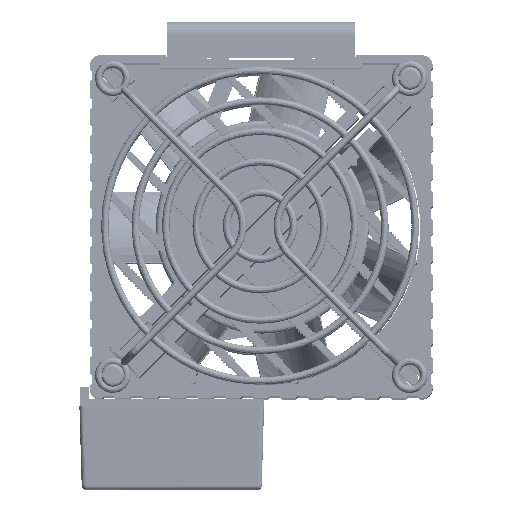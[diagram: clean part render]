
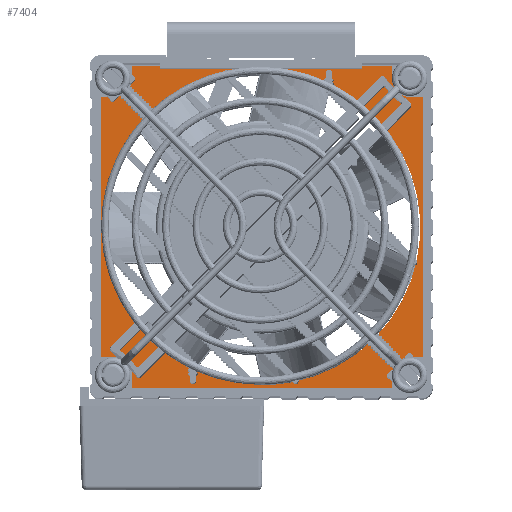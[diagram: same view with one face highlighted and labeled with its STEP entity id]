
A CAD part, top view. The second image highlights one B-rep face of the part: STEP entity #7404.
In plain terms, the highlighted planar face has unit normal (0, 0, 1).
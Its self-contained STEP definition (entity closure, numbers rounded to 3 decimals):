
#106=FACE_BOUND('',#12333,.T.);
#172=PLANE('',#45197);
#2467=(
BOUNDED_CURVE()
B_SPLINE_CURVE(2,(#55992,#55993,#55994,#55995,#55996),.UNSPECIFIED.,.F.,
 .F.)
B_SPLINE_CURVE_WITH_KNOTS((3,2,3),(0.,9.,12.),
 .UNSPECIFIED.)
CURVE()
GEOMETRIC_REPRESENTATION_ITEM()
RATIONAL_B_SPLINE_CURVE((1.,0.707,1.,1.,1.))
REPRESENTATION_ITEM('')
);
#2468=(
BOUNDED_CURVE()
B_SPLINE_CURVE(2,(#55997,#55998,#55999),.UNSPECIFIED.,.F.,.F.)
B_SPLINE_CURVE_WITH_KNOTS((3,3),(0.,62.1),.UNSPECIFIED.)
CURVE()
GEOMETRIC_REPRESENTATION_ITEM()
RATIONAL_B_SPLINE_CURVE((1.,1.,1.))
REPRESENTATION_ITEM('')
);
#2469=(
BOUNDED_CURVE()
B_SPLINE_CURVE(2,(#56000,#56001,#56002,#56003,#56004,#56005,#56006),
 .UNSPECIFIED.,.F.,.F.)
B_SPLINE_CURVE_WITH_KNOTS((3,2,2,3),(0.,3.,12.,15.),.UNSPECIFIED.)
CURVE()
GEOMETRIC_REPRESENTATION_ITEM()
RATIONAL_B_SPLINE_CURVE((1.,1.,1.,0.707,1.,1.,1.))
REPRESENTATION_ITEM('')
);
#2470=(
BOUNDED_CURVE()
B_SPLINE_CURVE(2,(#56007,#56008,#56009),.UNSPECIFIED.,.F.,.F.)
B_SPLINE_CURVE_WITH_KNOTS((3,3),(0.,62.1),.UNSPECIFIED.)
CURVE()
GEOMETRIC_REPRESENTATION_ITEM()
RATIONAL_B_SPLINE_CURVE((1.,1.,1.))
REPRESENTATION_ITEM('')
);
#2471=(
BOUNDED_CURVE()
B_SPLINE_CURVE(2,(#56010,#56011,#56012,#56013,#56014,#56015,#56016),
 .UNSPECIFIED.,.F.,.F.)
B_SPLINE_CURVE_WITH_KNOTS((3,2,2,3),(0.,3.,12.,
15.),.UNSPECIFIED.)
CURVE()
GEOMETRIC_REPRESENTATION_ITEM()
RATIONAL_B_SPLINE_CURVE((1.,1.,1.,0.707,1.,1.,1.))
REPRESENTATION_ITEM('')
);
#2472=(
BOUNDED_CURVE()
B_SPLINE_CURVE(2,(#56017,#56018,#56019),.UNSPECIFIED.,.F.,.F.)
B_SPLINE_CURVE_WITH_KNOTS((3,3),(0.,62.1),.UNSPECIFIED.)
CURVE()
GEOMETRIC_REPRESENTATION_ITEM()
RATIONAL_B_SPLINE_CURVE((1.,1.,1.))
REPRESENTATION_ITEM('')
);
#2473=(
BOUNDED_CURVE()
B_SPLINE_CURVE(2,(#56020,#56021,#56022,#56023,#56024,#56025,#56026),
 .UNSPECIFIED.,.F.,.F.)
B_SPLINE_CURVE_WITH_KNOTS((3,2,2,3),(0.,3.,12.,15.),.UNSPECIFIED.)
CURVE()
GEOMETRIC_REPRESENTATION_ITEM()
RATIONAL_B_SPLINE_CURVE((1.,1.,1.,0.707,1.,1.,1.))
REPRESENTATION_ITEM('')
);
#2474=(
BOUNDED_CURVE()
B_SPLINE_CURVE(2,(#56027,#56028,#56029),.UNSPECIFIED.,.F.,.F.)
B_SPLINE_CURVE_WITH_KNOTS((3,3),(0.,62.1),.UNSPECIFIED.)
CURVE()
GEOMETRIC_REPRESENTATION_ITEM()
RATIONAL_B_SPLINE_CURVE((1.,1.,1.))
REPRESENTATION_ITEM('')
);
#2475=(
BOUNDED_CURVE()
B_SPLINE_CURVE(2,(#56030,#56031,#56032),.UNSPECIFIED.,.F.,.F.)
B_SPLINE_CURVE_WITH_KNOTS((3,3),(0.,3.),.UNSPECIFIED.)
CURVE()
GEOMETRIC_REPRESENTATION_ITEM()
RATIONAL_B_SPLINE_CURVE((1.,1.,1.))
REPRESENTATION_ITEM('')
);
#2476=(
BOUNDED_CURVE()
B_SPLINE_CURVE(2,(#56033,#56034,#56035,#56036,#56037,#56038,#56039,#56040,
#56041),.UNSPECIFIED.,.T.,.F.)
B_SPLINE_CURVE_WITH_KNOTS((3,2,2,2,3),(0.,75.6,151.2,226.8,
302.4),.UNSPECIFIED.)
CURVE()
GEOMETRIC_REPRESENTATION_ITEM()
RATIONAL_B_SPLINE_CURVE((1.,0.707,1.,0.707,1.,0.707,
1.,0.707,1.))
REPRESENTATION_ITEM('')
);
#7404=ADVANCED_FACE('',(#9868,#106),#172,.T.);
#9868=FACE_OUTER_BOUND('',#12332,.T.);
#12332=EDGE_LOOP('',(#15019,#15020,#15021,#15022,#15023,#15024,#15025,#15026,
#15027));
#12333=EDGE_LOOP('',(#15028));
#15019=ORIENTED_EDGE('',*,*,#29230,.T.);
#15020=ORIENTED_EDGE('',*,*,#29231,.T.);
#15021=ORIENTED_EDGE('',*,*,#29232,.T.);
#15022=ORIENTED_EDGE('',*,*,#29233,.T.);
#15023=ORIENTED_EDGE('',*,*,#29234,.T.);
#15024=ORIENTED_EDGE('',*,*,#29235,.T.);
#15025=ORIENTED_EDGE('',*,*,#29236,.T.);
#15026=ORIENTED_EDGE('',*,*,#29237,.T.);
#15027=ORIENTED_EDGE('',*,*,#29238,.T.);
#15028=ORIENTED_EDGE('',*,*,#29239,.T.);
#29230=EDGE_CURVE('',#40233,#40234,#2467,.T.);
#29231=EDGE_CURVE('',#40234,#40235,#2468,.T.);
#29232=EDGE_CURVE('',#40235,#40236,#2469,.T.);
#29233=EDGE_CURVE('',#40236,#40237,#2470,.T.);
#29234=EDGE_CURVE('',#40237,#40238,#2471,.T.);
#29235=EDGE_CURVE('',#40238,#40239,#2472,.T.);
#29236=EDGE_CURVE('',#40239,#40240,#2473,.T.);
#29237=EDGE_CURVE('',#40240,#40241,#2474,.T.);
#29238=EDGE_CURVE('',#40241,#40233,#2475,.T.);
#29239=EDGE_CURVE('',#40242,#40242,#2476,.T.);
#40233=VERTEX_POINT('',#55982);
#40234=VERTEX_POINT('',#55983);
#40235=VERTEX_POINT('',#55984);
#40236=VERTEX_POINT('',#55985);
#40237=VERTEX_POINT('',#55986);
#40238=VERTEX_POINT('',#55987);
#40239=VERTEX_POINT('',#55988);
#40240=VERTEX_POINT('',#55989);
#40241=VERTEX_POINT('',#55990);
#40242=VERTEX_POINT('',#55991);
#45197=AXIS2_PLACEMENT_3D('',#55981,#47445,$);
#47445=DIRECTION('',(0.,0.,1.));
#55981=CARTESIAN_POINT('',(-150.864,117.514,-1.1));
#55982=CARTESIAN_POINT('',(-69.05,102.3,-1.1));
#55983=CARTESIAN_POINT('',(-73.55,109.8,-1.1));
#55984=CARTESIAN_POINT('',(-135.65,109.8,-1.1));
#55985=CARTESIAN_POINT('',(-143.15,102.3,-1.1));
#55986=CARTESIAN_POINT('',(-143.15,40.2,-1.1));
#55987=CARTESIAN_POINT('',(-135.65,32.7,-1.1));
#55988=CARTESIAN_POINT('',(-73.55,32.7,-1.1));
#55989=CARTESIAN_POINT('',(-66.05,40.2,-1.1));
#55990=CARTESIAN_POINT('',(-66.05,102.3,-1.1));
#55991=CARTESIAN_POINT('',(-104.6,33.45,-1.1));
#55992=CARTESIAN_POINT('',(-69.05,102.3,-1.1));
#55993=CARTESIAN_POINT('',(-73.55,102.3,-1.1));
#55994=CARTESIAN_POINT('',(-73.55,106.8,-1.1));
#55995=CARTESIAN_POINT('',(-73.55,108.3,-1.1));
#55996=CARTESIAN_POINT('',(-73.55,109.8,-1.1));
#55997=CARTESIAN_POINT('',(-73.55,109.8,-1.1));
#55998=CARTESIAN_POINT('',(-104.6,109.8,-1.1));
#55999=CARTESIAN_POINT('',(-135.65,109.8,-1.1));
#56000=CARTESIAN_POINT('',(-135.65,109.8,-1.1));
#56001=CARTESIAN_POINT('',(-135.65,108.3,-1.1));
#56002=CARTESIAN_POINT('',(-135.65,106.8,-1.1));
#56003=CARTESIAN_POINT('',(-135.65,102.3,-1.1));
#56004=CARTESIAN_POINT('',(-140.15,102.3,-1.1));
#56005=CARTESIAN_POINT('',(-141.65,102.3,-1.1));
#56006=CARTESIAN_POINT('',(-143.15,102.3,-1.1));
#56007=CARTESIAN_POINT('',(-143.15,102.3,-1.1));
#56008=CARTESIAN_POINT('',(-143.15,71.25,-1.1));
#56009=CARTESIAN_POINT('',(-143.15,40.2,-1.1));
#56010=CARTESIAN_POINT('',(-143.15,40.2,-1.1));
#56011=CARTESIAN_POINT('',(-141.65,40.2,-1.1));
#56012=CARTESIAN_POINT('',(-140.15,40.2,-1.1));
#56013=CARTESIAN_POINT('',(-135.65,40.2,-1.1));
#56014=CARTESIAN_POINT('',(-135.65,35.7,-1.1));
#56015=CARTESIAN_POINT('',(-135.65,34.2,-1.1));
#56016=CARTESIAN_POINT('',(-135.65,32.7,-1.1));
#56017=CARTESIAN_POINT('',(-135.65,32.7,-1.1));
#56018=CARTESIAN_POINT('',(-104.6,32.7,-1.1));
#56019=CARTESIAN_POINT('',(-73.55,32.7,-1.1));
#56020=CARTESIAN_POINT('',(-73.55,32.7,-1.1));
#56021=CARTESIAN_POINT('',(-73.55,34.2,-1.1));
#56022=CARTESIAN_POINT('',(-73.55,35.7,-1.1));
#56023=CARTESIAN_POINT('',(-73.55,40.2,-1.1));
#56024=CARTESIAN_POINT('',(-69.05,40.2,-1.1));
#56025=CARTESIAN_POINT('',(-67.55,40.2,-1.1));
#56026=CARTESIAN_POINT('',(-66.05,40.2,-1.1));
#56027=CARTESIAN_POINT('',(-66.05,40.2,-1.1));
#56028=CARTESIAN_POINT('',(-66.05,71.25,-1.1));
#56029=CARTESIAN_POINT('',(-66.05,102.3,-1.1));
#56030=CARTESIAN_POINT('',(-66.05,102.3,-1.1));
#56031=CARTESIAN_POINT('',(-67.55,102.3,-1.1));
#56032=CARTESIAN_POINT('',(-69.05,102.3,-1.1));
#56033=CARTESIAN_POINT('',(-104.6,33.45,-1.1));
#56034=CARTESIAN_POINT('',(-142.4,33.45,-1.1));
#56035=CARTESIAN_POINT('',(-142.4,71.25,-1.1));
#56036=CARTESIAN_POINT('',(-142.4,109.05,-1.1));
#56037=CARTESIAN_POINT('',(-104.6,109.05,-1.1));
#56038=CARTESIAN_POINT('',(-66.8,109.05,-1.1));
#56039=CARTESIAN_POINT('',(-66.8,71.25,-1.1));
#56040=CARTESIAN_POINT('',(-66.8,33.45,-1.1));
#56041=CARTESIAN_POINT('',(-104.6,33.45,-1.1));
